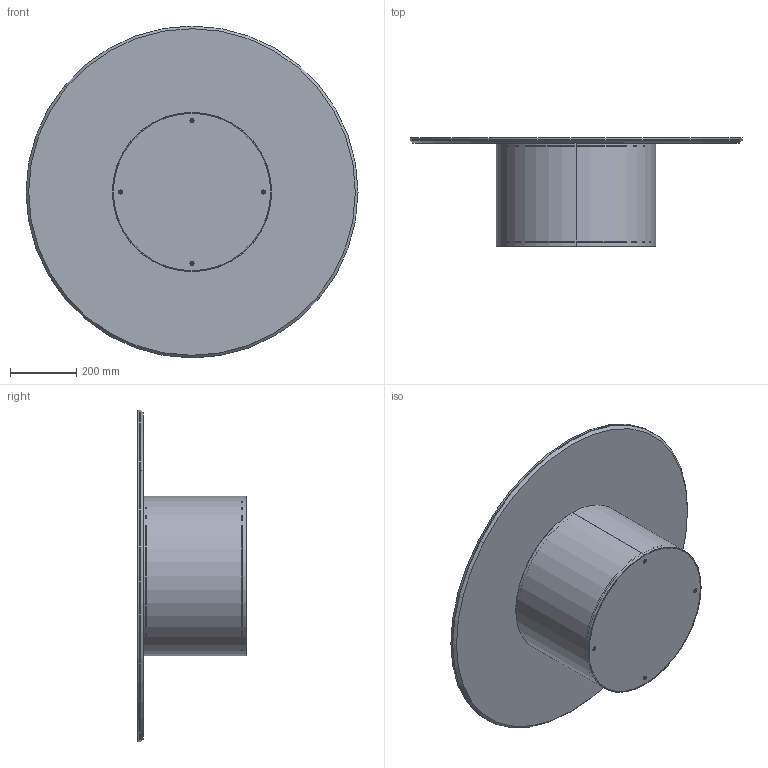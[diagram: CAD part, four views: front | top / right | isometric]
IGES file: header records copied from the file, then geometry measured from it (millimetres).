
Start section: SolidWorks IGES file using analytic representation for surfaces
Global section: file name: Y:\eforma\TECNICO\SOLIDWORKS\E-FORMA\2-TAVOLINI\CILINDRO LOW\02 parts\CL03C.IGS; native system: SolidWorks 2022; preprocessor: SolidWorks 2022; author: eforma.tech; date: 240806.121505; units: millimetre
Bounding box: 1000 x 326 x 1000 mm (x, y, z)
Volume: 15988080.9 mm3; surface area: 4871879.2 mm2
Topology: 15 solids, 15 shells, 298 faces, 659 edges, 386 vertices
Faces by surface type: revolution 165, plane 128, bspline 5
